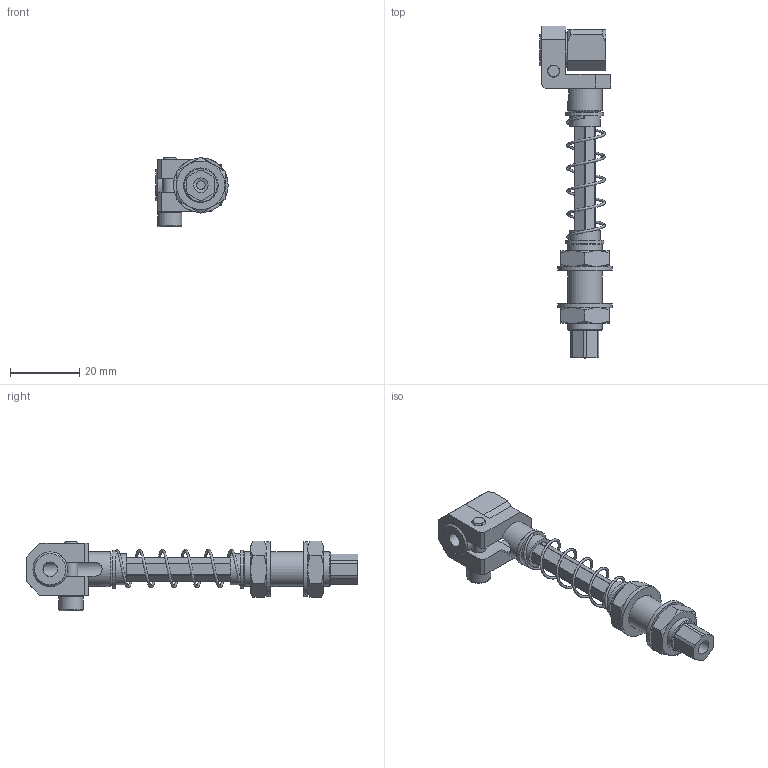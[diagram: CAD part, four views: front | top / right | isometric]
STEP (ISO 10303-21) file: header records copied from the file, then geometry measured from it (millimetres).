
FILE_DESCRIPTION(('STEP AP214'),'1');
FILE_NAME('CA.SASG.10050530.stp','2024-01-16T12:33:22',(' '),(' '),'Spatial InterOp 3D',' ',' ');
FILE_SCHEMA(('AUTOMOTIVE_DESIGN { 1 0 10303 214 1 1 1 1 }'));
Length unit declared in the file: millimetre
Products named in the file (12): CA.SASG.10050530; R.10.SCH; 05.01.005.06; V.TCE4x16; R.4.SCH; GGB.10.5.5; SAE.10050510.4; M.10.5x48B; SAEG.10050510.3; SAE.10050510.1; SAE.10050530.1; SSN.10100505.1
Assembly tree (14 placements, depth 2):
  CA.SASG.10050530
    R.10.SCH  x2
    05.01.005.06  x2
    V.TCE4x16
    R.4.SCH
    GGB.10.5.5
    SAE.10050510.4  x2
    M.10.5x48B
    SAEG.10050510.3
    SAE.10050510.1
    SAE.10050530.1
    SSN.10100505.1
Bounding box: 20.9 x 96 x 20.08 mm (x, y, z)
Volume: 8087.7 mm3; surface area: 10429.4 mm2
Topology: 14 solids, 14 shells, 411 faces, 1100 edges, 718 vertices
Faces by surface type: plane 292, cylinder 59, cone 54, torus 5, bspline 1
Full cylindrical faces by diameter (mm): 2.5 x1, 3.3 x1, 4 x1, 4.2 x10, 4.3 x1, 5 x3, 5.2 x2, 5.8 x1, 6 x1, 7 x4, 9 x4, 10 x4, 10.6 x2, 11 x2, 15.8 x2
Entity records: 16916 total; most frequent: CARTESIAN_POINT 3582, DIRECTION 1970, ORIENTED_EDGE 1922, EDGE_CURVE 961, AXIS2_PLACEMENT_3D 713, VERTEX_POINT 661, LINE 544, VECTOR 544
